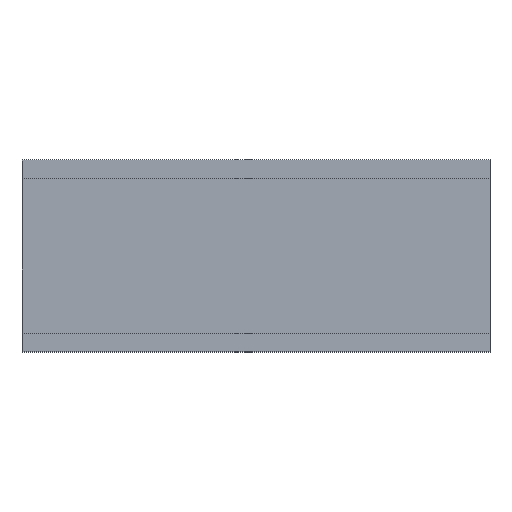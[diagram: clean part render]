
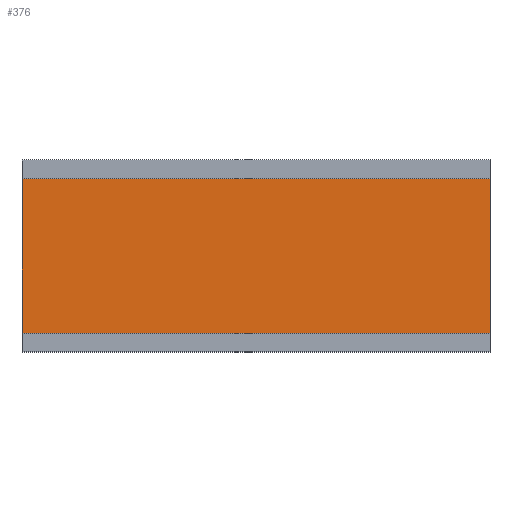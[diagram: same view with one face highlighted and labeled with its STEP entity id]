
A CAD part, top view. The second image highlights one B-rep face of the part: STEP entity #376.
In plain terms, the highlighted planar face has unit normal (0, 0, 1).
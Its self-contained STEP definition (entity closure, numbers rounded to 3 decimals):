
#368 = ORIENTED_EDGE ( 'NONE', *, *, #385, .T. ) ;
#370 = EDGE_CURVE ( 'NONE', #391, #378, #661, .T. ) ;
#371 = VERTEX_POINT ( 'NONE', #582 ) ;
#372 = EDGE_LOOP ( 'NONE', ( #374, #375, #377, #368 ) ) ;
#373 = EDGE_CURVE ( 'NONE', #378, #371, #656, .T. ) ;
#374 = ORIENTED_EDGE ( 'NONE', *, *, #381, .T. ) ;
#375 = ORIENTED_EDGE ( 'NONE', *, *, #373, .F. ) ;
#376 = ADVANCED_FACE ( 'NONE', ( #588 ), #673, .F. ) ;
#377 = ORIENTED_EDGE ( 'NONE', *, *, #370, .F. ) ;
#378 = VERTEX_POINT ( 'NONE', #597 ) ;
#381 = EDGE_CURVE ( 'NONE', #387, #371, #641, .T. ) ;
#385 = EDGE_CURVE ( 'NONE', #391, #387, #578, .T. ) ;
#387 = VERTEX_POINT ( 'NONE', #663 ) ;
#391 = VERTEX_POINT ( 'NONE', #657 ) ;
#576 = DIRECTION ( 'NONE',  ( -1., 0., 0. ) ) ;
#577 = VECTOR ( 'NONE', #576, 1000. ) ;
#578 = LINE ( 'NONE', #636, #577 ) ;
#582 = CARTESIAN_POINT ( 'NONE',  ( 0., -16.5, 12.225 ) ) ;
#588 = FACE_OUTER_BOUND ( 'NONE', #372, .T. ) ;
#597 = CARTESIAN_POINT ( 'NONE',  ( 100., -16.5, 12.225 ) ) ;
#636 = CARTESIAN_POINT ( 'NONE',  ( 100., 16.5, 12.225 ) ) ;
#639 = DIRECTION ( 'NONE',  ( 0., -1., 0. ) ) ;
#640 = VECTOR ( 'NONE', #639, 1000. ) ;
#641 = LINE ( 'NONE', #650, #640 ) ;
#647 = DIRECTION ( 'NONE',  ( -1., 0., 0. ) ) ;
#648 = DIRECTION ( 'NONE',  ( 0., 0., -1. ) ) ;
#649 = CARTESIAN_POINT ( 'NONE',  ( 100., -16.5, 12.225 ) ) ;
#650 = CARTESIAN_POINT ( 'NONE',  ( 0., -16.5, 12.225 ) ) ;
#652 = AXIS2_PLACEMENT_3D ( 'NONE', #649, #648, #647 ) ;
#654 = DIRECTION ( 'NONE',  ( -1., 0., 0. ) ) ;
#655 = VECTOR ( 'NONE', #654, 1000. ) ;
#656 = LINE ( 'NONE', #662, #655 ) ;
#657 = CARTESIAN_POINT ( 'NONE',  ( 100., 16.5, 12.225 ) ) ;
#658 = DIRECTION ( 'NONE',  ( 0., -1., 0. ) ) ;
#659 = VECTOR ( 'NONE', #658, 1000. ) ;
#660 = CARTESIAN_POINT ( 'NONE',  ( 100., -16.5, 12.225 ) ) ;
#661 = LINE ( 'NONE', #660, #659 ) ;
#662 = CARTESIAN_POINT ( 'NONE',  ( 100., -16.5, 12.225 ) ) ;
#663 = CARTESIAN_POINT ( 'NONE',  ( 0., 16.5, 12.225 ) ) ;
#673 = PLANE ( 'NONE',  #652 ) ;
